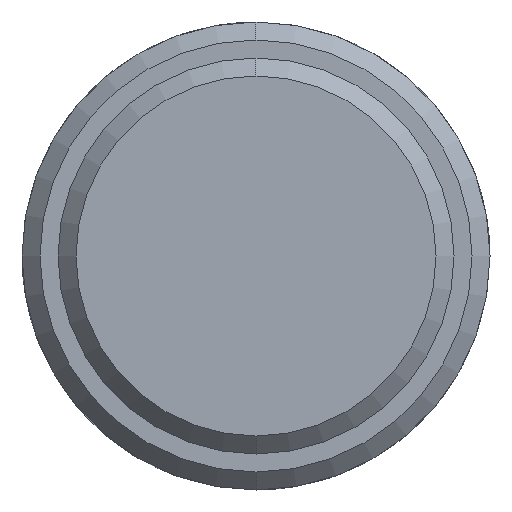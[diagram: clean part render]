
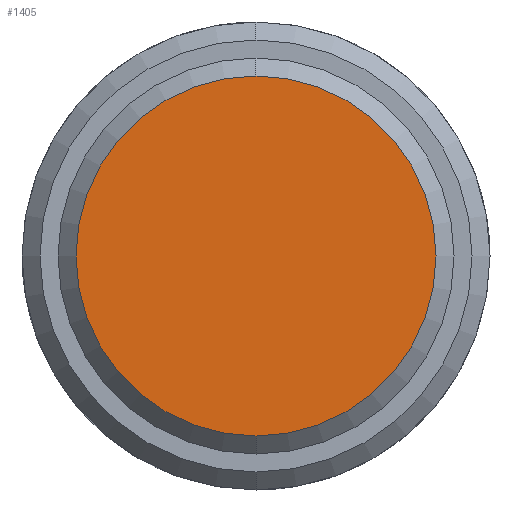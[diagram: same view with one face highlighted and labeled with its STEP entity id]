
A CAD part, left-side view. The second image highlights one B-rep face of the part: STEP entity #1405.
In plain terms, the highlighted planar face has unit normal (-1, 0, 0).
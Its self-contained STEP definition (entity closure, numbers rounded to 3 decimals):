
#1337=CARTESIAN_POINT('Vertex',(-15.,0.,-10.)) ;
#1340=CARTESIAN_POINT('Axis2P3D Location',(-15.,0.,0.)) ;
#1344=CARTESIAN_POINT('Vertex',(-15.,10.,0.)) ;
#1347=CARTESIAN_POINT('Axis2P3D Location',(-15.,0.,0.)) ;
#1351=CARTESIAN_POINT('Vertex',(-15.,0.,10.)) ;
#1373=CARTESIAN_POINT('Axis2P3D Location',(-15.,0.,0.)) ;
#1377=CARTESIAN_POINT('Vertex',(-15.,-10.,0.)) ;
#1380=CARTESIAN_POINT('Axis2P3D Location',(-15.,0.,0.)) ;
#1394=CARTESIAN_POINT('Axis2P3D Location',(-15.,0.,0.)) ;
#1341=DIRECTION('Axis2P3D Direction',(1.,0.,-0.)) ;
#1348=DIRECTION('Axis2P3D Direction',(1.,0.,-0.)) ;
#1374=DIRECTION('Axis2P3D Direction',(1.,0.,-0.)) ;
#1381=DIRECTION('Axis2P3D Direction',(1.,0.,-0.)) ;
#1395=DIRECTION('Axis2P3D Direction',(1.,0.,-0.)) ;
#1396=DIRECTION('Axis2P3D XDirection',(-0.,0.,-1.)) ;
#1342=AXIS2_PLACEMENT_3D('Circle Axis2P3D',#1340,#1341,$) ;
#1349=AXIS2_PLACEMENT_3D('Circle Axis2P3D',#1347,#1348,$) ;
#1375=AXIS2_PLACEMENT_3D('Circle Axis2P3D',#1373,#1374,$) ;
#1382=AXIS2_PLACEMENT_3D('Circle Axis2P3D',#1380,#1381,$) ;
#1397=AXIS2_PLACEMENT_3D('Plane Axis2P3D',#1394,#1395,#1396) ;
#1400=ORIENTED_EDGE('',*,*,#1346,.F.) ;
#1401=ORIENTED_EDGE('',*,*,#1384,.F.) ;
#1402=ORIENTED_EDGE('',*,*,#1379,.F.) ;
#1403=ORIENTED_EDGE('',*,*,#1353,.F.) ;
#1405=ADVANCED_FACE('357-16X46X100',(#1404),#1398,.F.) ;
#1343=CIRCLE('generated circle',#1342,10.) ;
#1350=CIRCLE('generated circle',#1349,10.) ;
#1376=CIRCLE('generated circle',#1375,10.) ;
#1383=CIRCLE('generated circle',#1382,10.) ;
#1346=EDGE_CURVE('',#1338,#1345,#1343,.T.) ;
#1353=EDGE_CURVE('',#1345,#1352,#1350,.T.) ;
#1379=EDGE_CURVE('',#1352,#1378,#1376,.T.) ;
#1384=EDGE_CURVE('',#1378,#1338,#1383,.T.) ;
#1399=EDGE_LOOP('',(#1400,#1401,#1402,#1403)) ;
#1404=FACE_OUTER_BOUND('',#1399,.T.) ;
#1398=PLANE('Plane',#1397) ;
#1338=VERTEX_POINT('',#1337) ;
#1345=VERTEX_POINT('',#1344) ;
#1352=VERTEX_POINT('',#1351) ;
#1378=VERTEX_POINT('',#1377) ;
